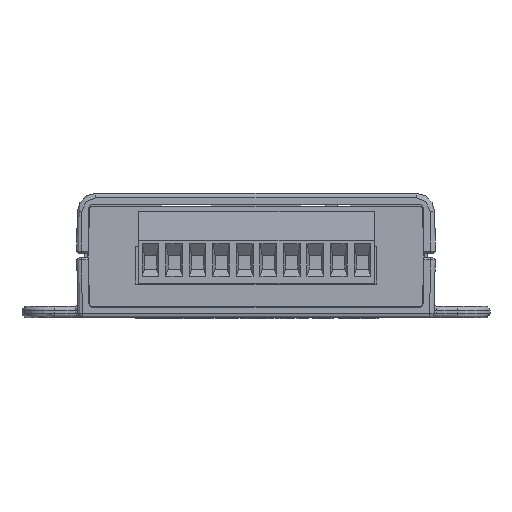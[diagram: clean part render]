
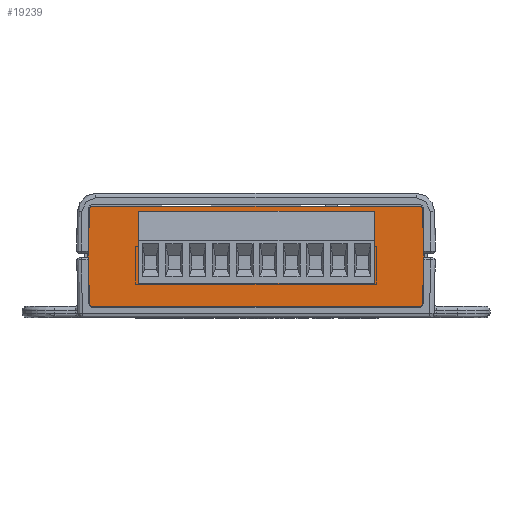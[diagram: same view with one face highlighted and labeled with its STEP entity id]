
A CAD part, front view. The second image highlights one B-rep face of the part: STEP entity #19239.
In plain terms, the highlighted planar face has unit normal (0, -1, 0) as drawn and (0, 0, 1) by its records, which use the part's own axes.
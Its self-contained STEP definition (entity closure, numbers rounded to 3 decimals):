
#19239=ADVANCED_FACE('NONE',(#39181),#39182,.T.);
#39181=FACE_OUTER_BOUND('',#64121,.T.);
#39182=PLANE('',#64122);
#64121=EDGE_LOOP('',(#119519,#119520,#119521,#119522,#119523,#119524,#119525,#119526,#119527,#119528));
#64122=AXIS2_PLACEMENT_3D('',#119529,#119530,#119531);
#119519=ORIENTED_EDGE('',*,*,#149814,.T.);
#119520=ORIENTED_EDGE('',*,*,#149953,.T.);
#119521=ORIENTED_EDGE('',*,*,#149949,.T.);
#119522=ORIENTED_EDGE('',*,*,#149932,.T.);
#119523=ORIENTED_EDGE('',*,*,#149954,.T.);
#119524=ORIENTED_EDGE('',*,*,#149935,.T.);
#119525=ORIENTED_EDGE('',*,*,#149955,.T.);
#119526=ORIENTED_EDGE('',*,*,#149940,.T.);
#119527=ORIENTED_EDGE('',*,*,#149947,.T.);
#119528=ORIENTED_EDGE('',*,*,#149956,.T.);
#119529=CARTESIAN_POINT('',(0.0,0.0,1.3));
#119530=DIRECTION('',(-0.0,0.0,1.0));
#119531=DIRECTION('',(1.0,0.0,0.0));
#149814=EDGE_CURVE('NONE',#182543,#182541,#182544,.T.);
#149932=EDGE_CURVE('NONE',#182774,#182772,#182775,.T.);
#149935=EDGE_CURVE('NONE',#182778,#182779,#182780,.T.);
#149940=EDGE_CURVE('NONE',#182787,#182788,#182789,.T.);
#149947=EDGE_CURVE('NONE',#182788,#182798,#182800,.T.);
#149949=EDGE_CURVE('NONE',#182802,#182774,#182803,.T.);
#149953=EDGE_CURVE('NONE',#182541,#182802,#182808,.T.);
#149954=EDGE_CURVE('NONE',#182772,#182778,#182809,.T.);
#149955=EDGE_CURVE('NONE',#182779,#182787,#182810,.T.);
#149956=EDGE_CURVE('NONE',#182798,#182543,#182811,.T.);
#182541=VERTEX_POINT('NONE',#230261);
#182543=VERTEX_POINT('NONE',#230264);
#182544=LINE('',#230265,#230266);
#182772=VERTEX_POINT('NONE',#231097);
#182774=VERTEX_POINT('NONE',#231100);
#182775=LINE('',#231101,#231102);
#182778=VERTEX_POINT('NONE',#231106);
#182779=VERTEX_POINT('NONE',#231107);
#182780=LINE('',#231108,#231109);
#182787=VERTEX_POINT('NONE',#231119);
#182788=VERTEX_POINT('NONE',#231120);
#182789=LINE('',#231121,#231122);
#182798=VERTEX_POINT('NONE',#231135);
#182800=LINE('',#231138,#231139);
#182802=VERTEX_POINT('NONE',#231141);
#182803=LINE('',#231142,#231143);
#182808=CIRCLE('',#231150,0.5);
#182809=CIRCLE('',#231151,0.5);
#182810=CIRCLE('',#231152,0.5);
#182811=CIRCLE('',#231153,0.5);
#230261=CARTESIAN_POINT('',(-35.395,21.777,1.3));
#230264=CARTESIAN_POINT('',(35.395,21.777,1.3));
#230265=CARTESIAN_POINT('',(-35.9,21.777,1.3));
#230266=VECTOR('',#258718,1000.0);
#231097=CARTESIAN_POINT('',(-35.895,0.505,1.3));
#231100=CARTESIAN_POINT('',(-36.258,10.9,1.3));
#231101=CARTESIAN_POINT('',(-36.258,10.901,1.3));
#231102=VECTOR('',#258803,1000.0);
#231106=CARTESIAN_POINT('',(-35.395,0.023,1.3));
#231107=CARTESIAN_POINT('',(35.395,0.023,1.3));
#231108=CARTESIAN_POINT('',(-35.9,0.023,1.3));
#231109=VECTOR('',#258805,1000.0);
#231119=CARTESIAN_POINT('',(35.895,0.505,1.3));
#231120=CARTESIAN_POINT('',(36.258,10.9,1.3));
#231121=CARTESIAN_POINT('',(36.258,10.901,1.3));
#231122=VECTOR('',#258809,1000.0);
#231135=CARTESIAN_POINT('',(35.895,21.295,1.3));
#231138=CARTESIAN_POINT('',(35.877,21.799,1.3));
#231139=VECTOR('',#258815,1000.0);
#231141=CARTESIAN_POINT('',(-35.895,21.295,1.3));
#231142=CARTESIAN_POINT('',(-35.877,21.799,1.3));
#231143=VECTOR('',#258816,1000.0);
#231150=AXIS2_PLACEMENT_3D('',#258819,#258820,#258821);
#231151=AXIS2_PLACEMENT_3D('',#258822,#258823,#258824);
#231152=AXIS2_PLACEMENT_3D('',#258825,#258826,#258827);
#231153=AXIS2_PLACEMENT_3D('',#258828,#258829,#258830);
#258718=DIRECTION('',(-1.0,0.0,-0.0));
#258803=DIRECTION('',(0.035,-0.999,0.0));
#258805=DIRECTION('',(1.0,-0.0,-0.0));
#258809=DIRECTION('',(0.035,0.999,0.));
#258815=DIRECTION('',(-0.035,0.999,-0.0));
#258816=DIRECTION('',(-0.035,-0.999,-0.0));
#258819=CARTESIAN_POINT('',(-35.395,21.277,1.3));
#258820=DIRECTION('',(0.0,-0.0,1.0));
#258821=DIRECTION('',(0.,1.,0.0));
#258822=CARTESIAN_POINT('',(-35.395,0.523,1.3));
#258823=DIRECTION('',(0.0,0.0,1.0));
#258824=DIRECTION('',(-0.999,-0.035,0.0));
#258825=CARTESIAN_POINT('',(35.395,0.523,1.3));
#258826=DIRECTION('',(0.0,0.0,1.0));
#258827=DIRECTION('',(0.,-1.,0.0));
#258828=CARTESIAN_POINT('',(35.395,21.277,1.3));
#258829=DIRECTION('',(0.,0.,1.0));
#258830=DIRECTION('',(0.999,0.035,0.));
